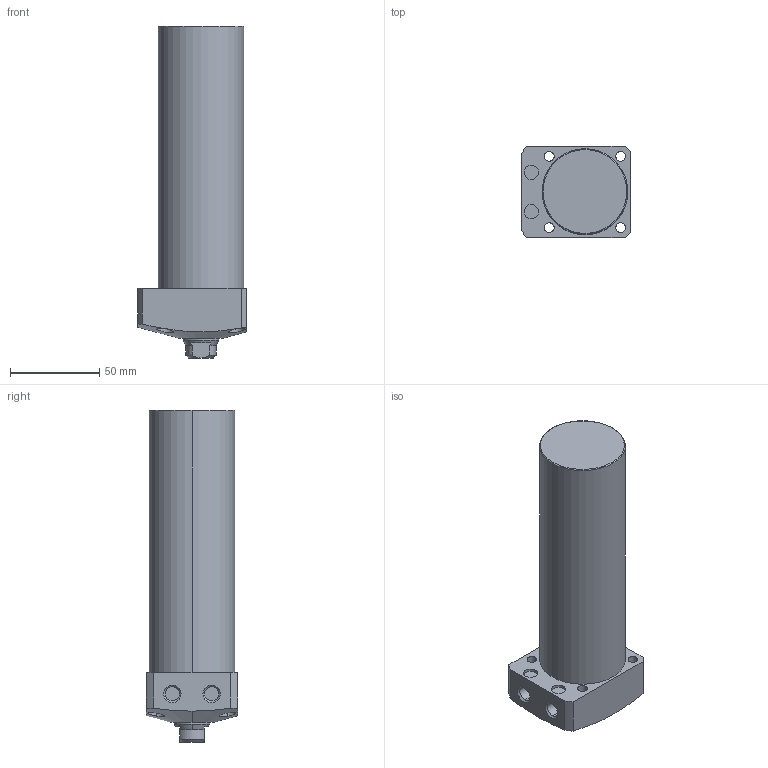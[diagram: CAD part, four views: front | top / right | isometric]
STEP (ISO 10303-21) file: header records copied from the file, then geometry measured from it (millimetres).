
FILE_DESCRIPTION (( 'STEP AP203' ), '1' );
FILE_NAME ('CLL-048CA-120.STEP', '2019-12-21T07:24:46', ( '' ), ( '' ), 'SwSTEP 2.0', 'SolidWorks 2015', '' );
FILE_SCHEMA (( 'CONFIG_CONTROL_DESIGN' ));
Length unit declared in the file: millimetre
Products named in the file (1): CLL-048CA-120
Bounding box: 61 x 51 x 186 mm (x, y, z)
Volume: 340205.3 mm3; surface area: 36943.5 mm2
Topology: 1 solids, 1 shells, 74 faces, 170 edges, 107 vertices
Faces by surface type: cylinder 35, plane 22, cone 15, torus 2
Entity records: 2535 total; most frequent: CARTESIAN_POINT 748, DIRECTION 374, ORIENTED_EDGE 336, EDGE_CURVE 168, AXIS2_PLACEMENT_3D 155, VERTEX_POINT 107, EDGE_LOOP 93, CIRCLE 80
